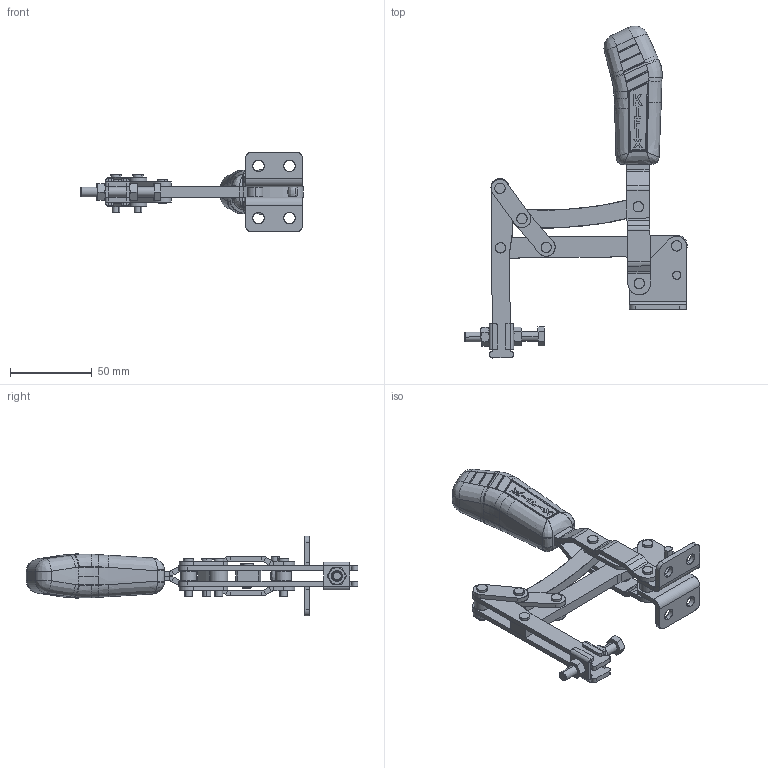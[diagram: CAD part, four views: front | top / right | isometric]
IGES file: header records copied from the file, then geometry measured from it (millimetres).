
Start section: SolidWorks IGES file using analytic representation for surfaces
Global section: file name: C:\Projetos\Grampos\KF-017\KF-017 DS A\KF-017 DS A.IGS; native system: SolidWorks 2013; preprocessor: SolidWorks 2013; author: Ricardo; date: 140905.092918; units: millimetre
Bounding box: 136.61 x 203.61 x 48.95 mm (x, y, z)
Surface area: 57448 mm2 (no closed solid volume)
Topology: 0 solids, 0 shells, 822 faces, 9889 edges, 9884 vertices
Faces by surface type: bspline 496, revolution 326
